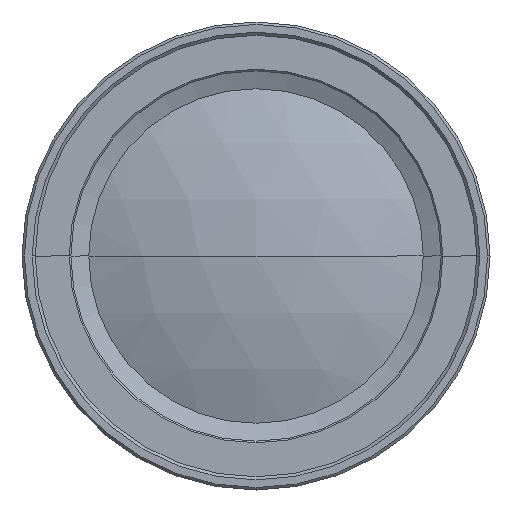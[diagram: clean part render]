
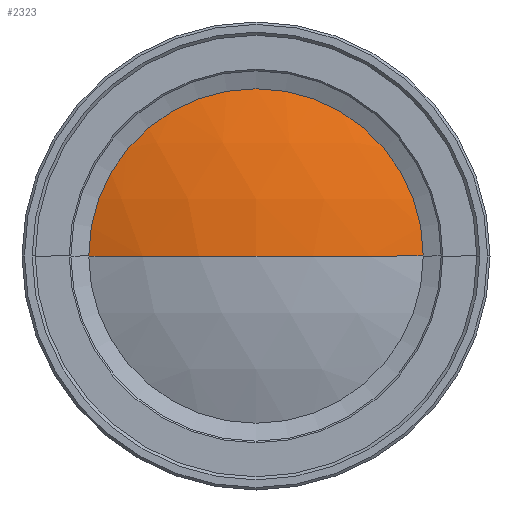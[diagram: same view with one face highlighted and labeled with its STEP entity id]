
A CAD part, left-side view. The second image highlights one B-rep face of the part: STEP entity #2323.
In plain terms, the highlighted spherical face has radius 57 mm.
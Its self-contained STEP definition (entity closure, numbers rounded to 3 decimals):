
#98 = CARTESIAN_POINT ( 'NONE',  ( -18.07, 0., 0. ) ) ;
#291 = AXIS2_PLACEMENT_3D ( 'NONE', #2884, #305, #1089 ) ;
#305 = DIRECTION ( 'NONE',  ( 0., 0., -1. ) ) ;
#384 = VERTEX_POINT ( 'NONE', #3017 ) ;
#408 = ORIENTED_EDGE ( 'NONE', *, *, #2887, .T. ) ;
#598 = SPHERICAL_SURFACE ( 'NONE', #1826, 57. ) ;
#784 = AXIS2_PLACEMENT_3D ( 'NONE', #1995, #3056, #1533 ) ;
#840 = DIRECTION ( 'NONE',  ( 0., 0., 1. ) ) ;
#1089 = DIRECTION ( 'NONE',  ( -1., 0., 0. ) ) ;
#1222 = EDGE_CURVE ( 'NONE', #1726, #384, #2718, .T. ) ;
#1425 = DIRECTION ( 'NONE',  ( 0., 0., 1. ) ) ;
#1533 = DIRECTION ( 'NONE',  ( 0., 1., 0. ) ) ;
#1617 = EDGE_LOOP ( 'NONE', ( #3205, #408, #2953 ) ) ;
#1637 = DIRECTION ( 'NONE',  ( 0., 1., 0. ) ) ;
#1726 = VERTEX_POINT ( 'NONE', #2561 ) ;
#1826 = AXIS2_PLACEMENT_3D ( 'NONE', #2645, #840, #1637 ) ;
#1920 = DIRECTION ( 'NONE',  ( 0., -1., 0. ) ) ;
#1995 = CARTESIAN_POINT ( 'NONE',  ( -71.198, 0., 0. ) ) ;
#2089 = AXIS2_PLACEMENT_3D ( 'NONE', #98, #1425, #1920 ) ;
#2323 = ADVANCED_FACE ( 'NONE', ( #3225 ), #598, .T. ) ;
#2473 = VERTEX_POINT ( 'NONE', #2484 ) ;
#2484 = CARTESIAN_POINT ( 'NONE',  ( -75.07, 0., 0. ) ) ;
#2539 = CIRCLE ( 'NONE', #2089, 57. ) ;
#2561 = CARTESIAN_POINT ( 'NONE',  ( -71.198, 20.65, 0. ) ) ;
#2645 = CARTESIAN_POINT ( 'NONE',  ( -18.07, 0., 0. ) ) ;
#2685 = CIRCLE ( 'NONE', #291, 57. ) ;
#2718 = CIRCLE ( 'NONE', #784, 20.65 ) ;
#2750 = EDGE_CURVE ( 'NONE', #2473, #1726, #2685, .T. ) ;
#2884 = CARTESIAN_POINT ( 'NONE',  ( -18.07, 0., 0. ) ) ;
#2887 = EDGE_CURVE ( 'NONE', #2473, #384, #2539, .T. ) ;
#2953 = ORIENTED_EDGE ( 'NONE', *, *, #1222, .F. ) ;
#3017 = CARTESIAN_POINT ( 'NONE',  ( -71.198, -20.65, 0. ) ) ;
#3056 = DIRECTION ( 'NONE',  ( 1., 0., 0. ) ) ;
#3205 = ORIENTED_EDGE ( 'NONE', *, *, #2750, .F. ) ;
#3225 = FACE_OUTER_BOUND ( 'NONE', #1617, .T. ) ;
